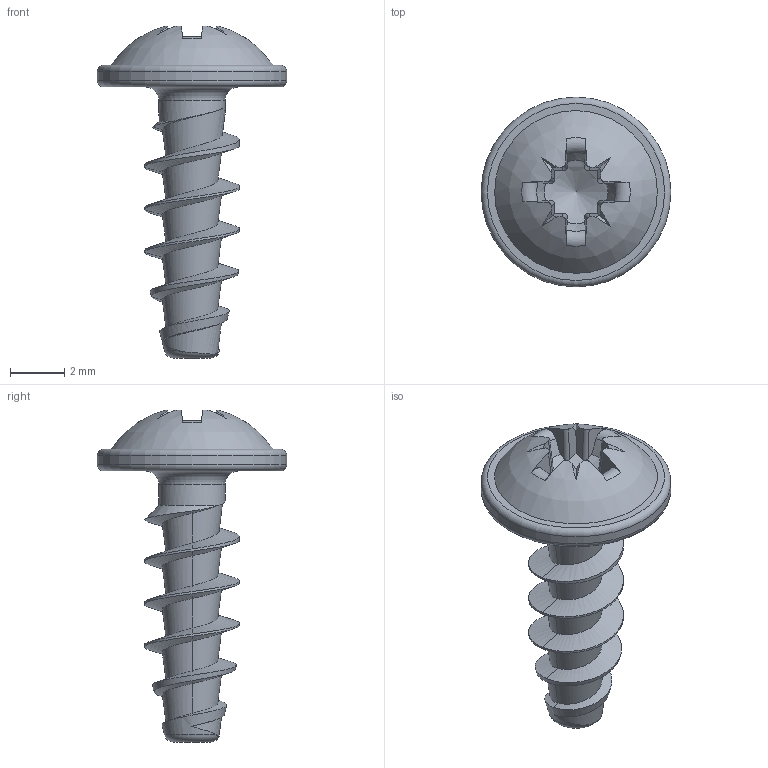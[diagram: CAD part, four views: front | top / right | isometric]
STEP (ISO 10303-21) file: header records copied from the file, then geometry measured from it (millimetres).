
FILE_DESCRIPTION(/* description */ (''),/* implementation_level */ '2;1');
FILE_NAME(/* name */ 'KN1031-Neu-STS-35x10-Z2.step',/* time_stamp */ '2017-10-12T13:46:53+02:00',/* author */ (''),/* organization */ (''),/* preprocessor_version */ 'ST-DEVELOPER v16',/* originating_system */ 'SIEMENS PLM Software NX 10.0',/* authorisation */ '');
FILE_SCHEMA (('AUTOMOTIVE_DESIGN { 1 0 10303 214 3 1 1 1 }'));
Length unit declared in the file: millimetre
Products named in the file (1): KN1031-Neu-STS-35x10-Z2
Bounding box: 7 x 7 x 12.25 mm (x, y, z)
Volume: 91.4 mm3; surface area: 217.5 mm2
Topology: 1 solids, 1 shells, 74 faces, 196 edges, 125 vertices
Faces by surface type: plane 27, bspline 20, cylinder 11, torus 8, cone 7, sphere 1
Full cylindrical faces by diameter (mm): 2.44 x1, 7 x1
Entity records: 3721 total; most frequent: CARTESIAN_POINT 2122, ORIENTED_EDGE 364, DIRECTION 255, EDGE_CURVE 182, VERTEX_POINT 120, AXIS2_PLACEMENT_3D 103, B_SPLINE_CURVE_WITH_KNOTS 85, EDGE_LOOP 83
